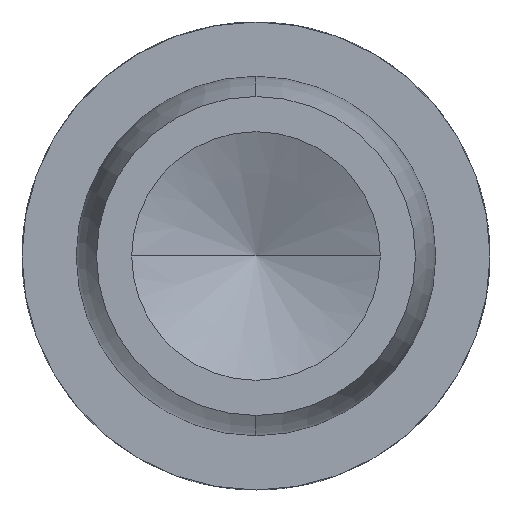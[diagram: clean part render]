
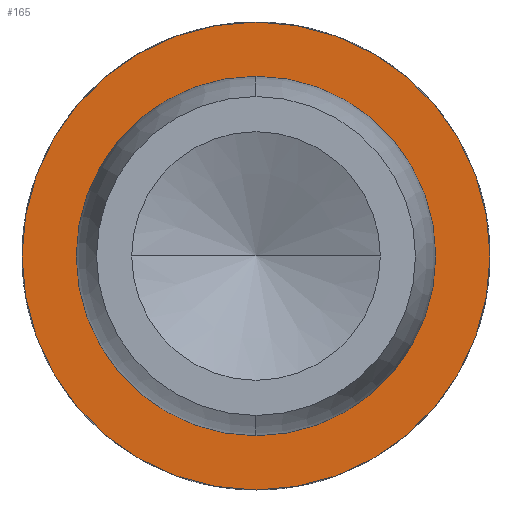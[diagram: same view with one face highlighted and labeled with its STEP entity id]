
A CAD part, left-side view. The second image highlights one B-rep face of the part: STEP entity #165.
In plain terms, the highlighted planar face has unit normal (-1, 0, 0).
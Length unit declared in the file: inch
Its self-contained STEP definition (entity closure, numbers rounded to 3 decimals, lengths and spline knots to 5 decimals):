
#61 = CARTESIAN_POINT ( 'NONE',  ( -1.125, 0., -0.3125 ) ) ;
#165 = ADVANCED_FACE ( 'NONE', ( #302, #369 ), #856, .T. ) ;
#171 = AXIS2_PLACEMENT_3D ( 'NONE', #404, #1424, #1354 ) ;
#191 = AXIS2_PLACEMENT_3D ( 'NONE', #703, #1386, #1343 ) ;
#229 = CIRCLE ( 'NONE', #171, 0.24 ) ;
#287 = CARTESIAN_POINT ( 'NONE',  ( -1.125, 0., 0. ) ) ;
#291 = CARTESIAN_POINT ( 'NONE',  ( -1.125, 0., 0.24 ) ) ;
#302 = FACE_OUTER_BOUND ( 'NONE', #941, .T. ) ;
#330 = EDGE_CURVE ( 'NONE', #1316, #1048, #719, .T. ) ;
#339 = EDGE_CURVE ( 'NONE', #1253, #792, #481, .T. ) ;
#348 = AXIS2_PLACEMENT_3D ( 'NONE', #287, #1089, #413 ) ;
#369 = FACE_BOUND ( 'NONE', #395, .T. ) ;
#376 = CIRCLE ( 'NONE', #348, 0.3125 ) ;
#389 = ORIENTED_EDGE ( 'NONE', *, *, #339, .T. ) ;
#395 = EDGE_LOOP ( 'NONE', ( #1416, #676 ) ) ;
#404 = CARTESIAN_POINT ( 'NONE',  ( -1.125, 0., 0. ) ) ;
#413 = DIRECTION ( 'NONE',  ( 0., 0., 1. ) ) ;
#467 = CARTESIAN_POINT ( 'NONE',  ( -1.125, 0., -0.24 ) ) ;
#481 = CIRCLE ( 'NONE', #1269, 0.3125 ) ;
#573 = CARTESIAN_POINT ( 'NONE',  ( -1.125, 0., 0. ) ) ;
#633 = DIRECTION ( 'NONE',  ( -1., 0., 0. ) ) ;
#644 = CARTESIAN_POINT ( 'NONE',  ( -1.125, 0., -0.24 ) ) ;
#648 = EDGE_CURVE ( 'NONE', #792, #1253, #376, .T. ) ;
#676 = ORIENTED_EDGE ( 'NONE', *, *, #1364, .F. ) ;
#703 = CARTESIAN_POINT ( 'NONE',  ( -1.125, 0., 0. ) ) ;
#719 = CIRCLE ( 'NONE', #191, 0.24 ) ;
#746 = DIRECTION ( 'NONE',  ( 0., 0., 1. ) ) ;
#792 = VERTEX_POINT ( 'NONE', #1330 ) ;
#856 = PLANE ( 'NONE',  #904 ) ;
#904 = AXIS2_PLACEMENT_3D ( 'NONE', #644, #633, #746 ) ;
#941 = EDGE_LOOP ( 'NONE', ( #1061, #389 ) ) ;
#1048 = VERTEX_POINT ( 'NONE', #467 ) ;
#1049 = DIRECTION ( 'NONE',  ( 0., 0., 1. ) ) ;
#1061 = ORIENTED_EDGE ( 'NONE', *, *, #648, .T. ) ;
#1089 = DIRECTION ( 'NONE',  ( -1., 0., 0. ) ) ;
#1248 = DIRECTION ( 'NONE',  ( -1., 0., 0. ) ) ;
#1253 = VERTEX_POINT ( 'NONE', #61 ) ;
#1269 = AXIS2_PLACEMENT_3D ( 'NONE', #573, #1248, #1049 ) ;
#1316 = VERTEX_POINT ( 'NONE', #291 ) ;
#1330 = CARTESIAN_POINT ( 'NONE',  ( -1.125, 0., 0.3125 ) ) ;
#1343 = DIRECTION ( 'NONE',  ( 0., 0., 1. ) ) ;
#1354 = DIRECTION ( 'NONE',  ( 0., 0., 1. ) ) ;
#1364 = EDGE_CURVE ( 'NONE', #1048, #1316, #229, .T. ) ;
#1386 = DIRECTION ( 'NONE',  ( -1., 0., 0. ) ) ;
#1416 = ORIENTED_EDGE ( 'NONE', *, *, #330, .F. ) ;
#1424 = DIRECTION ( 'NONE',  ( -1., 0., 0. ) ) ;
